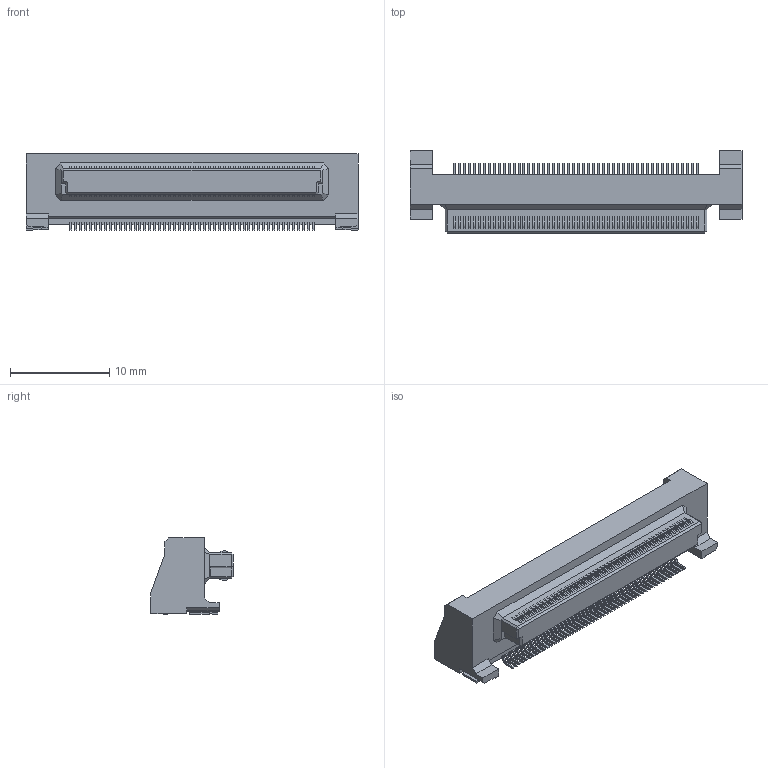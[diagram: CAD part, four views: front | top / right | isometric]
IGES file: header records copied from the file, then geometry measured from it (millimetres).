
Start section: Elysium IGES Interface
Global section: file name: C:\Users\1354\Desktop\DY10-100L.igs; native system: Creo Elements/Direct Modeling 19.0F  14-Feb-2017; preprocessor: Creo Element/Direct IGES_3D V2.2; author: Unknown; organization: Unknown; date: 20171130.161354; units: millimetre
Bounding box: 33.5 x 8.3 x 7.7 mm (x, y, z)
Volume: 979.6 mm3; surface area: 1171.3 mm2
Topology: 1 solids, 1 shells, 1647 faces, 4498 edges, 2956 vertices
Faces by surface type: bspline 1647
